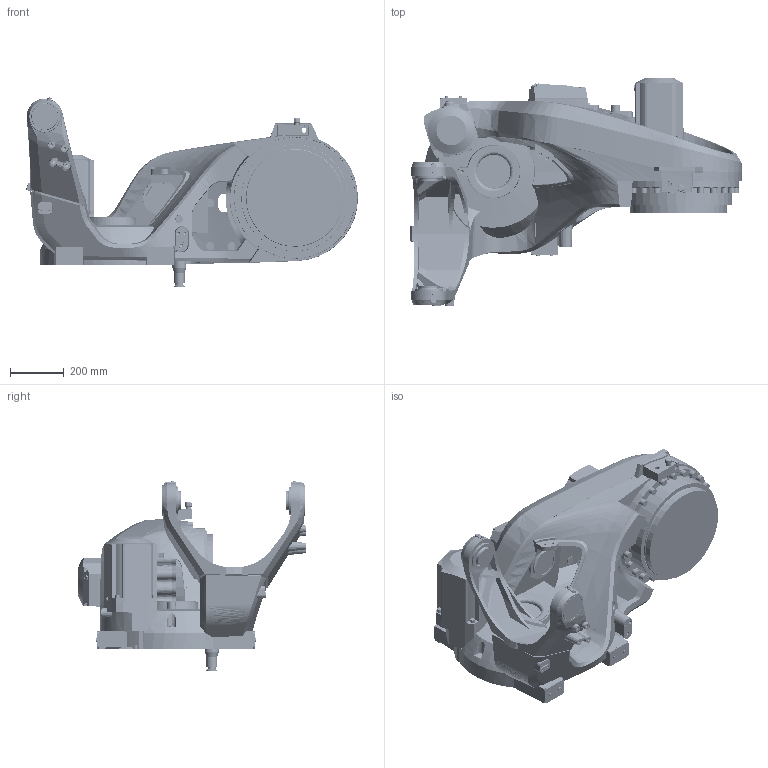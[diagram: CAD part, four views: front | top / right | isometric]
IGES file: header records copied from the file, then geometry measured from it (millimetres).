
Start section: SolidWorks IGES file using analytic representation for surfaces
Global section: file name: C:\Data\SAP_DOC\IRB6740_lightweight\6750S\IRB 6750S ASM\IRB6750S-LID-SW_185kg-390_OC_01_SW_J\IRB6750S-LID-SW_185kg-390_OC_01_IGES_J\IRB6750S_All_OC_00_LINK01_CAD.igs; native system: SolidWorks 2024; preprocessor: SolidWorks 2024; author: SEJAOLS6; date: 260513.074133; units: millimetre
Bounding box: 1237.99 x 848.5 x 707.36 mm (x, y, z)
Surface area: 3986545.7 mm2 (no closed solid volume)
Topology: 0 solids, 0 shells, 2103 faces, 35643 edges, 35559 vertices
Faces by surface type: bspline 1137, revolution 966
